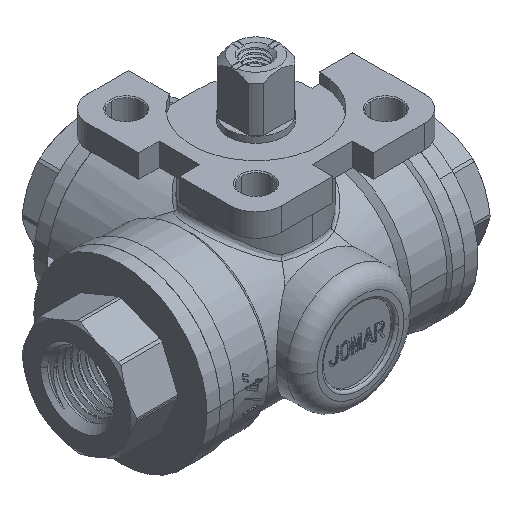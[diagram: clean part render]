
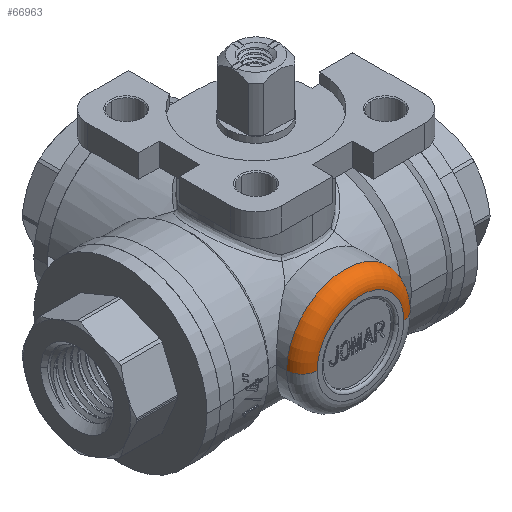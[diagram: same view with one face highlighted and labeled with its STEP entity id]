
A CAD part, isometric view. The second image highlights one B-rep face of the part: STEP entity #66963.
In plain terms, the highlighted toroidal (fillet/blend) face has major radius 0.335 mm and minor radius 0.118 mm.
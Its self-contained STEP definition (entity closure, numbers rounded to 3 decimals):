
#66322 = CYLINDRICAL_SURFACE('',#66323,0.453);
#66323 = AXIS2_PLACEMENT_3D('',#66324,#66325,#66326);
#66324 = CARTESIAN_POINT('',(-23.054,-12.449,-27.847));
#66325 = DIRECTION('',(0.,-1.,0.));
#66326 = DIRECTION('',(1.,0.,0.));
#66739 = VERTEX_POINT('',#66740);
#66740 = CARTESIAN_POINT('',(-23.508,-12.37,-27.847));
#66761 = EDGE_CURVE('',#66762,#66739,#66764,.T.);
#66762 = VERTEX_POINT('',#66763);
#66763 = CARTESIAN_POINT('',(-22.601,-12.37,-27.847));
#66764 = SURFACE_CURVE('',#66765,(#66770,#66777),.PCURVE_S1.);
#66765 = CIRCLE('',#66766,0.453);
#66766 = AXIS2_PLACEMENT_3D('',#66767,#66768,#66769);
#66767 = CARTESIAN_POINT('',(-23.054,-12.37,-27.847));
#66768 = DIRECTION('',(0.,-1.,0.));
#66769 = DIRECTION('',(1.,0.,0.));
#66770 = PCURVE('',#66322,#66771);
#66771 = DEFINITIONAL_REPRESENTATION('',(#66772),#66776);
#66772 = LINE('',#66773,#66774);
#66773 = CARTESIAN_POINT('',(0.,-0.079));
#66774 = VECTOR('',#66775,1.);
#66775 = DIRECTION('',(1.,0.));
#66776 = ( GEOMETRIC_REPRESENTATION_CONTEXT(2) 
PARAMETRIC_REPRESENTATION_CONTEXT() REPRESENTATION_CONTEXT('2D SPACE',''
  ) );
#66777 = PCURVE('',#66778,#66783);
#66778 = TOROIDAL_SURFACE('',#66779,0.335,0.118);
#66779 = AXIS2_PLACEMENT_3D('',#66780,#66781,#66782);
#66780 = CARTESIAN_POINT('',(-23.054,-12.37,-27.847));
#66781 = DIRECTION('',(0.,-1.,0.));
#66782 = DIRECTION('',(1.,0.,0.));
#66783 = DEFINITIONAL_REPRESENTATION('',(#66784),#66788);
#66784 = LINE('',#66785,#66786);
#66785 = CARTESIAN_POINT('',(0.,0.));
#66786 = VECTOR('',#66787,1.);
#66787 = DIRECTION('',(1.,0.));
#66788 = ( GEOMETRIC_REPRESENTATION_CONTEXT(2) 
PARAMETRIC_REPRESENTATION_CONTEXT() REPRESENTATION_CONTEXT('2D SPACE',''
  ) );
#66963 = ADVANCED_FACE('',(#66964),#66778,.T.);
#66964 = FACE_BOUND('',#66965,.T.);
#66965 = EDGE_LOOP('',(#66966,#66967,#66996,#67025));
#66966 = ORIENTED_EDGE('',*,*,#66761,.T.);
#66967 = ORIENTED_EDGE('',*,*,#66968,.T.);
#66968 = EDGE_CURVE('',#66739,#66969,#66971,.T.);
#66969 = VERTEX_POINT('',#66970);
#66970 = CARTESIAN_POINT('',(-23.389,-12.488,-27.847));
#66971 = SURFACE_CURVE('',#66972,(#66977,#66984),.PCURVE_S1.);
#66972 = CIRCLE('',#66973,0.118);
#66973 = AXIS2_PLACEMENT_3D('',#66974,#66975,#66976);
#66974 = CARTESIAN_POINT('',(-23.389,-12.37,-27.847));
#66975 = DIRECTION('',(0.,0.,1.));
#66976 = DIRECTION('',(-1.,0.,0.));
#66977 = PCURVE('',#66778,#66978);
#66978 = DEFINITIONAL_REPRESENTATION('',(#66979),#66983);
#66979 = LINE('',#66980,#66981);
#66980 = CARTESIAN_POINT('',(3.142,0.));
#66981 = VECTOR('',#66982,1.);
#66982 = DIRECTION('',(0.,1.));
#66983 = ( GEOMETRIC_REPRESENTATION_CONTEXT(2) 
PARAMETRIC_REPRESENTATION_CONTEXT() REPRESENTATION_CONTEXT('2D SPACE',''
  ) );
#66984 = PCURVE('',#66985,#66990);
#66985 = TOROIDAL_SURFACE('',#66986,0.335,0.118);
#66986 = AXIS2_PLACEMENT_3D('',#66987,#66988,#66989);
#66987 = CARTESIAN_POINT('',(-23.054,-12.37,-27.847));
#66988 = DIRECTION('',(0.,-1.,0.));
#66989 = DIRECTION('',(1.,0.,0.));
#66990 = DEFINITIONAL_REPRESENTATION('',(#66991),#66995);
#66991 = LINE('',#66992,#66993);
#66992 = CARTESIAN_POINT('',(3.142,0.));
#66993 = VECTOR('',#66994,1.);
#66994 = DIRECTION('',(0.,1.));
#66995 = ( GEOMETRIC_REPRESENTATION_CONTEXT(2) 
PARAMETRIC_REPRESENTATION_CONTEXT() REPRESENTATION_CONTEXT('2D SPACE',''
  ) );
#66996 = ORIENTED_EDGE('',*,*,#66997,.F.);
#66997 = EDGE_CURVE('',#66998,#66969,#67000,.T.);
#66998 = VERTEX_POINT('',#66999);
#66999 = CARTESIAN_POINT('',(-22.72,-12.488,-27.847));
#67000 = SURFACE_CURVE('',#67001,(#67006,#67013),.PCURVE_S1.);
#67001 = CIRCLE('',#67002,0.335);
#67002 = AXIS2_PLACEMENT_3D('',#67003,#67004,#67005);
#67003 = CARTESIAN_POINT('',(-23.054,-12.488,-27.847));
#67004 = DIRECTION('',(0.,-1.,0.));
#67005 = DIRECTION('',(1.,0.,0.));
#67006 = PCURVE('',#66778,#67007);
#67007 = DEFINITIONAL_REPRESENTATION('',(#67008),#67012);
#67008 = LINE('',#67009,#67010);
#67009 = CARTESIAN_POINT('',(0.,1.571));
#67010 = VECTOR('',#67011,1.);
#67011 = DIRECTION('',(1.,0.));
#67012 = ( GEOMETRIC_REPRESENTATION_CONTEXT(2) 
PARAMETRIC_REPRESENTATION_CONTEXT() REPRESENTATION_CONTEXT('2D SPACE',''
  ) );
#67013 = PCURVE('',#67014,#67019);
#67014 = PLANE('',#67015);
#67015 = AXIS2_PLACEMENT_3D('',#67016,#67017,#67018);
#67016 = CARTESIAN_POINT('',(-23.054,-12.488,-27.847));
#67017 = DIRECTION('',(0.,-1.,0.));
#67018 = DIRECTION('',(1.,0.,0.));
#67019 = DEFINITIONAL_REPRESENTATION('',(#67020),#67024);
#67020 = CIRCLE('',#67021,0.335);
#67021 = AXIS2_PLACEMENT_2D('',#67022,#67023);
#67022 = CARTESIAN_POINT('',(0.,0.));
#67023 = DIRECTION('',(1.,0.));
#67024 = ( GEOMETRIC_REPRESENTATION_CONTEXT(2) 
PARAMETRIC_REPRESENTATION_CONTEXT() REPRESENTATION_CONTEXT('2D SPACE',''
  ) );
#67025 = ORIENTED_EDGE('',*,*,#67026,.F.);
#67026 = EDGE_CURVE('',#66762,#66998,#67027,.T.);
#67027 = SURFACE_CURVE('',#67028,(#67033,#67040),.PCURVE_S1.);
#67028 = CIRCLE('',#67029,0.118);
#67029 = AXIS2_PLACEMENT_3D('',#67030,#67031,#67032);
#67030 = CARTESIAN_POINT('',(-22.72,-12.37,-27.847));
#67031 = DIRECTION('',(0.,0.,-1.));
#67032 = DIRECTION('',(0.,1.,0.));
#67033 = PCURVE('',#66778,#67034);
#67034 = DEFINITIONAL_REPRESENTATION('',(#67035),#67039);
#67035 = LINE('',#67036,#67037);
#67036 = CARTESIAN_POINT('',(0.,-1.571));
#67037 = VECTOR('',#67038,1.);
#67038 = DIRECTION('',(0.,1.));
#67039 = ( GEOMETRIC_REPRESENTATION_CONTEXT(2) 
PARAMETRIC_REPRESENTATION_CONTEXT() REPRESENTATION_CONTEXT('2D SPACE',''
  ) );
#67040 = PCURVE('',#66985,#67041);
#67041 = DEFINITIONAL_REPRESENTATION('',(#67042),#67046);
#67042 = LINE('',#67043,#67044);
#67043 = CARTESIAN_POINT('',(6.283,-1.571));
#67044 = VECTOR('',#67045,1.);
#67045 = DIRECTION('',(0.,1.));
#67046 = ( GEOMETRIC_REPRESENTATION_CONTEXT(2) 
PARAMETRIC_REPRESENTATION_CONTEXT() REPRESENTATION_CONTEXT('2D SPACE',''
  ) );
